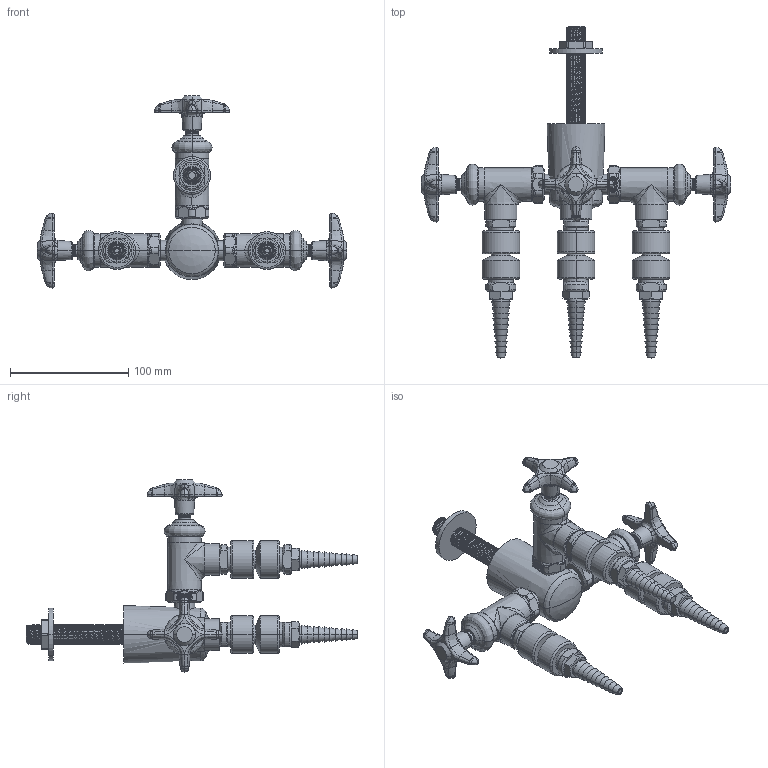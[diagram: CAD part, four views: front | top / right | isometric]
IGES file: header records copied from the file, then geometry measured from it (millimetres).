
Start section:  PTC IGES file: LWV2-C44-30.igs
Global section: file name: LWV2-C44-30.igs; native system: Creo Parametric by PTC Inc.; preprocessor: 2014500; author: usch_engrender; organization: Unknown; date: 20151124.122239; units: inch
Bounding box: 261.52 x 280.82 x 162.47 mm (x, y, z)
Volume: 434856.3 mm3; surface area: 117413 mm2
Topology: 1 solids, 8 shells, 1946 faces, 4521 edges, 2681 vertices
Faces by surface type: bspline 1011, revolution 935
